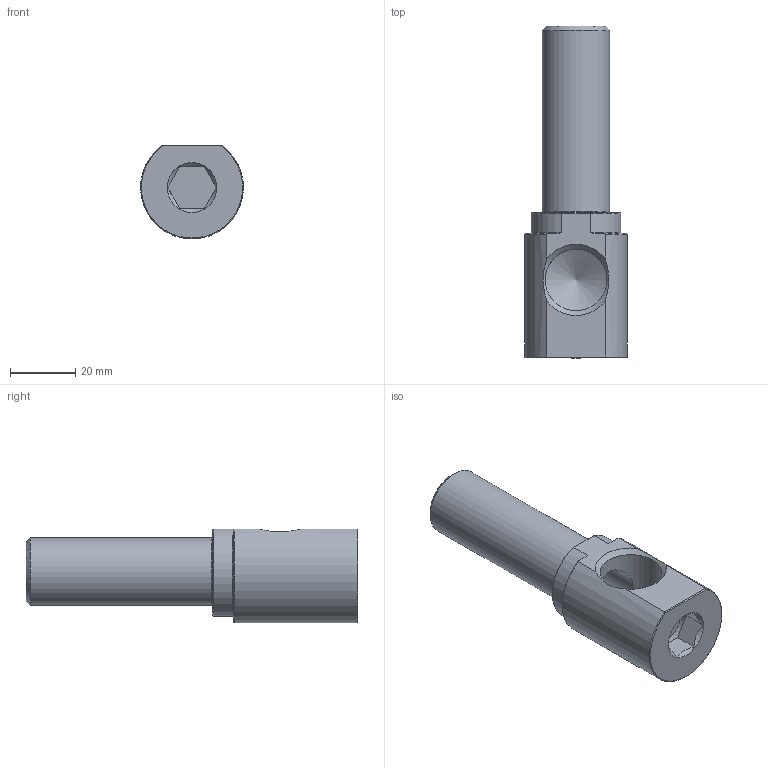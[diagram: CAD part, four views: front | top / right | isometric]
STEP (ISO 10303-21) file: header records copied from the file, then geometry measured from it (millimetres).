
FILE_DESCRIPTION(/* description */ (''),/* implementation_level */ '2;1');
FILE_NAME(/* name */ 'C:/Users/drich/Desktop/EKL50 X 4 v2.step',/* time_stamp */ '2019-11-18T14:43:22-06:00',/* author */ (''),/* organization */ (''),/* preprocessor_version */ 'ST-DEVELOPER v18',/* originating_system */ 'Autodesk Translation Framework v8.12.0.6',/* authorisation */ '');
FILE_SCHEMA (('AUTOMOTIVE_DESIGN { 1 0 10303 214 3 1 1 }'));
Length unit declared in the file: inch
Products named in the file (2): EKL50 X 4; EKL50X 4
Assembly tree (1 placements, depth 2):
  EKL50 X 4
    EKL50X 4
Bounding box: 31.46 x 101.6 x 28.75 mm (x, y, z)
Volume: 32698.4 mm3; surface area: 13858.9 mm2
Topology: 1 solids, 1 shells, 32 faces, 81 edges, 53 vertices
Faces by surface type: plane 16, cone 10, cylinder 6
Full cylindrical faces by diameter (mm): 14.275 x1, 14.986 x1, 18.901 x1, 20.813 x1
Entity records: 1072 total; most frequent: CARTESIAN_POINT 263, ORIENTED_EDGE 160, DIRECTION 156, EDGE_CURVE 80, AXIS2_PLACEMENT_3D 61, VERTEX_POINT 53, EDGE_LOOP 37, LINE 34
